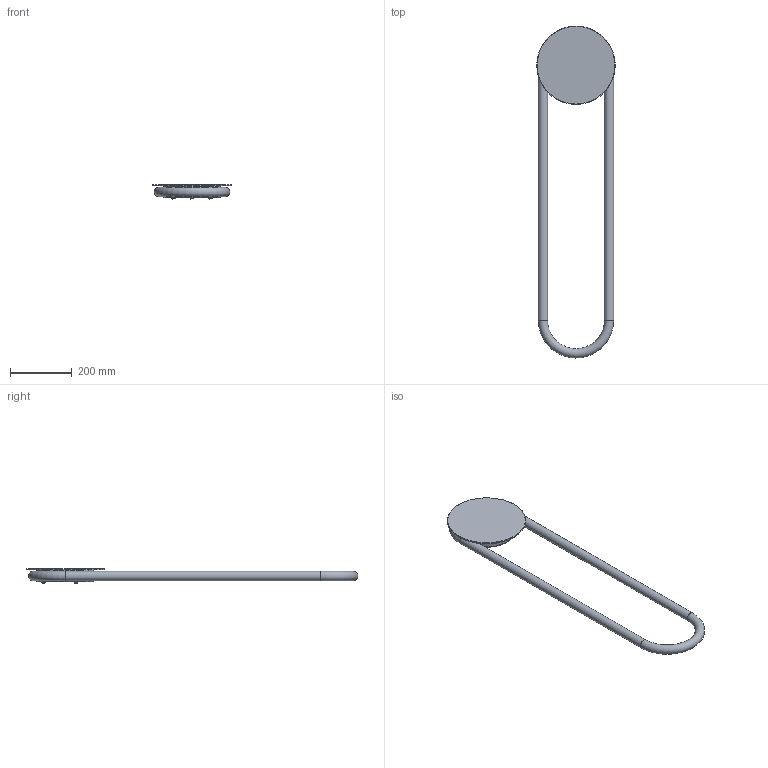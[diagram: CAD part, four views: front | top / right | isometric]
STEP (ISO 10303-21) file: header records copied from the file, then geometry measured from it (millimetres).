
FILE_DESCRIPTION(/* description */ (''),/* implementation_level */ '2;1');
FILE_NAME(/* name */ 'RAWAA.step',/* time_stamp */ '2023-05-08T14:44:40-04:00',/* author */ (''),/* organization */ (''),/* preprocessor_version */ 'ST-DEVELOPER v19.2',/* originating_system */ 'Autodesk Translation Framework v12.4.0.73',/* authorisation */ '');
FILE_SCHEMA (('AUTOMOTIVE_DESIGN { 1 0 10303 214 3 1 1 }'));
Length unit declared in the file: millimetre
Products named in the file (13): RAWA; A-0752; P-SPN0765ALUM-P03; H-MSC0616POLY; H-BSH0769POLY-C03; H-MSC0762POLY-C04; H-MSC0788POLY-C03; SEE TABLE; P-MLD0745GLAS; A-0785; E-LED0776; P-LSC0665POLY-C04; SEE TABLE_1
Assembly tree (16 placements, depth 4):
  RAWA
    A-0752
      P-SPN0765ALUM-P03
      H-MSC0616POLY
      H-BSH0769POLY-C03
      H-MSC0762POLY-C04  x3
      H-MSC0788POLY-C03  x2
    SEE TABLE
      P-MLD0745GLAS
      A-0785
        E-LED0776
      P-LSC0665POLY-C04  x2
    SEE TABLE_1
Bounding box: 254 x 1075.17 x 48.14 mm (x, y, z)
Volume: 1317615.7 mm3; surface area: 740329.7 mm2
Topology: 19 solids, 19 shells, 213 faces, 476 edges, 309 vertices
Faces by surface type: cylinder 102, plane 49, torus 41, cone 10, bspline 8, sphere 3
Full cylindrical faces by diameter (mm): 0.8 x3, 2.381 x2, 2.44 x2, 3.416 x1, 3.658 x8, 4.763 x2, 6 x1, 11 x2, 11.176 x3, 12.7 x1, 18 x4, 19.05 x2, 25 x2, 30 x2, 181.568 x1, 184.15 x1, 254 x1
Entity records: 6922 total; most frequent: CARTESIAN_POINT 2073, DIRECTION 1057, ORIENTED_EDGE 832, AXIS2_PLACEMENT_3D 472, EDGE_CURVE 416, VERTEX_POINT 273, CIRCLE 272, EDGE_LOOP 255
